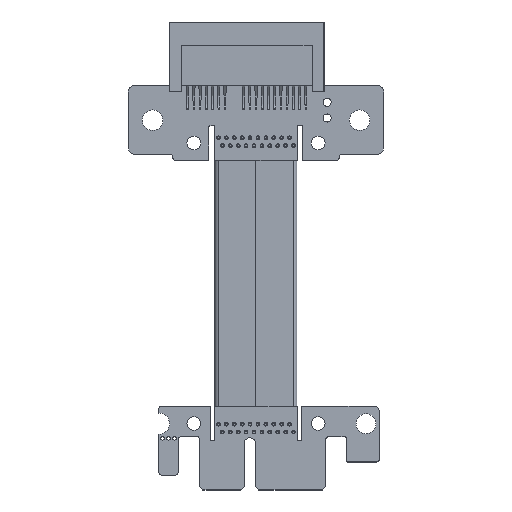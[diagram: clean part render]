
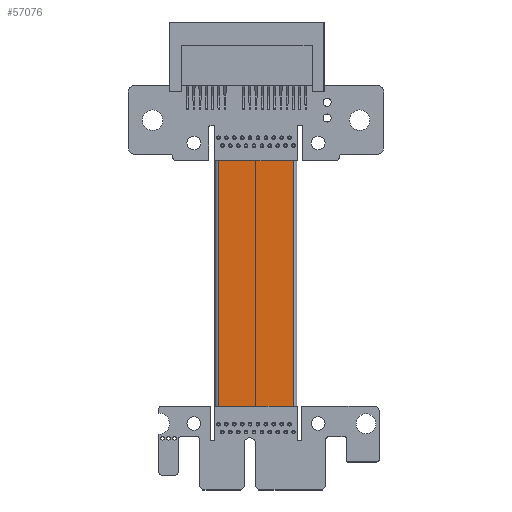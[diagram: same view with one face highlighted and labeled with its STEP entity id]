
A CAD part, top view. The second image highlights one B-rep face of the part: STEP entity #57076.
In plain terms, the highlighted planar face has unit normal (0, 0, 1) as drawn and (0, -1, 0) by its records, which use the part's own axes.
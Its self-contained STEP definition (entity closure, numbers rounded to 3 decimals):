
#57039 = VERTEX_POINT('',#57040);
#57040 = CARTESIAN_POINT('',(12.065,-1.4,-43.));
#57058 = VERTEX_POINT('',#57059);
#57059 = CARTESIAN_POINT('',(12.065,-1.4,0.));
#57066 = EDGE_CURVE('',#57039,#57058,#57067,.T.);
#57067 = LINE('',#57068,#57069);
#57068 = CARTESIAN_POINT('',(12.065,-1.4,-43.));
#57069 = VECTOR('',#57070,1.);
#57070 = DIRECTION('',(0.,0.,1.));
#57076 = ADVANCED_FACE('',(#57077),#57102,.T.);
#57077 = FACE_BOUND('',#57078,.T.);
#57078 = EDGE_LOOP('',(#57079,#57087,#57095,#57101));
#57079 = ORIENTED_EDGE('',*,*,#57080,.F.);
#57080 = EDGE_CURVE('',#57081,#57058,#57083,.T.);
#57081 = VERTEX_POINT('',#57082);
#57082 = CARTESIAN_POINT('',(0.,-1.4,
    0.));
#57083 = LINE('',#57084,#57085);
#57084 = CARTESIAN_POINT('',(6.032,-1.4,0.));
#57085 = VECTOR('',#57086,1.);
#57086 = DIRECTION('',(1.,0.,0.));
#57087 = ORIENTED_EDGE('',*,*,#57088,.F.);
#57088 = EDGE_CURVE('',#57089,#57081,#57091,.T.);
#57089 = VERTEX_POINT('',#57090);
#57090 = CARTESIAN_POINT('',(0.,-1.4,-43.)
  );
#57091 = LINE('',#57092,#57093);
#57092 = CARTESIAN_POINT('',(0.,-1.4,-43.)
  );
#57093 = VECTOR('',#57094,1.);
#57094 = DIRECTION('',(0.,0.,1.));
#57095 = ORIENTED_EDGE('',*,*,#57096,.T.);
#57096 = EDGE_CURVE('',#57089,#57039,#57097,.T.);
#57097 = LINE('',#57098,#57099);
#57098 = CARTESIAN_POINT('',(12.065,-1.4,-43.));
#57099 = VECTOR('',#57100,1.);
#57100 = DIRECTION('',(1.,0.,0.));
#57101 = ORIENTED_EDGE('',*,*,#57066,.T.);
#57102 = PLANE('',#57103);
#57103 = AXIS2_PLACEMENT_3D('',#57104,#57105,#57106);
#57104 = CARTESIAN_POINT('',(6.032,-1.4,-43.));
#57105 = DIRECTION('',(0.,-1.,0.));
#57106 = DIRECTION('',(0.,0.,-1.));
